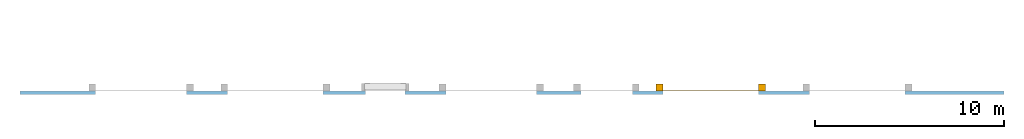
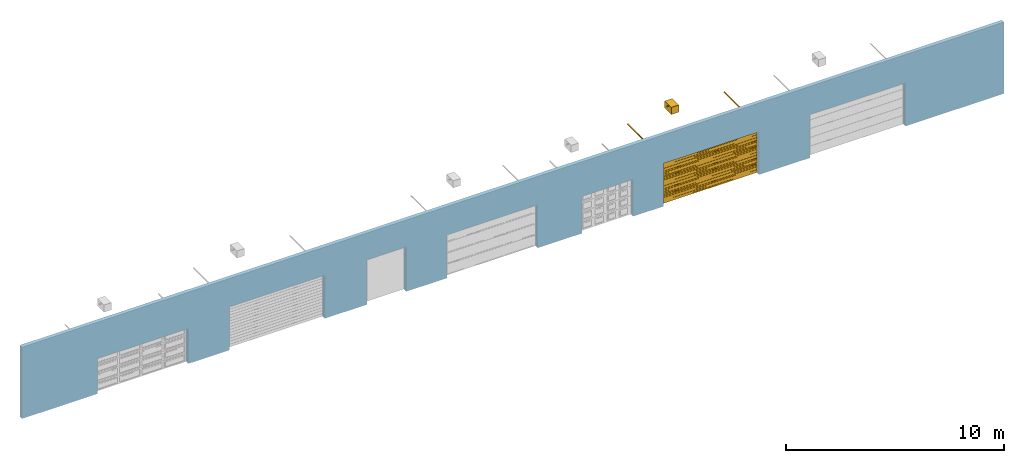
# One storey, part 3 of 4: 1 door, 7 openings, plus 1 element that does not belong to this part.
"""IFC2X3 building model written with IfcOpenShell, lengths in millimetres."""

from ifc_helpers import new_model, entity, si_unit, converted_unit, derived_unit, direction, frame, frame_2d, origin, place, context, subcontext, project, spatial, rectangle, extrude, faceted_brep, source, transform, mapped, material, material_list, layer, layer_set, layer_usage, type_object, type_shapes, element, fill, save


model = new_model("IFC2X3")

# Units and contexts
model_context = context("Model", 3, precision=0.01, world=origin(), true_north=direction((6.12303176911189e-17, 1.0)))
body_context = subcontext(model_context, "Body", "Model", "MODEL_VIEW")
ifc_project = project(units=[si_unit("LENGTHUNIT", "METRE", prefix="MILLI"), si_unit("AREAUNIT", "SQUARE_METRE"), si_unit("VOLUMEUNIT", "CUBIC_METRE"), converted_unit("PLANEANGLEUNIT", "DEGREE", entity("IfcRatioMeasure", 0.0174532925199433), si_unit("PLANEANGLEUNIT", "RADIAN"), dimensions=[0, 0, 0, 0, 0, 0, 0]), si_unit("MASSUNIT", "GRAM", prefix="KILO"), si_unit("TIMEUNIT", "SECOND"), si_unit("FREQUENCYUNIT", "HERTZ"), si_unit("THERMODYNAMICTEMPERATUREUNIT", "DEGREE_CELSIUS"), derived_unit("THERMALTRANSMITTANCEUNIT", [(si_unit("MASSUNIT", "GRAM", prefix="KILO"), 1), (si_unit("THERMODYNAMICTEMPERATUREUNIT", "KELVIN"), -1), (si_unit("TIMEUNIT", "SECOND"), -3)]), derived_unit("VOLUMETRICFLOWRATEUNIT", [(si_unit("LENGTHUNIT", "METRE"), 3), (si_unit("TIMEUNIT", "SECOND"), -1)]), si_unit("ELECTRICCURRENTUNIT", "AMPERE"), si_unit("ELECTRICVOLTAGEUNIT", "VOLT"), si_unit("POWERUNIT", "WATT"), si_unit("FORCEUNIT", "NEWTON", prefix="KILO"), si_unit("ILLUMINANCEUNIT", "LUX"), si_unit("LUMINOUSFLUXUNIT", "LUMEN"), si_unit("LUMINOUSINTENSITYUNIT", "CANDELA"), derived_unit("USERDEFINED", [(si_unit("MASSUNIT", "GRAM", prefix="KILO"), -1), (si_unit("LENGTHUNIT", "METRE"), -2), (si_unit("TIMEUNIT", "SECOND"), 3), (si_unit("LUMINOUSFLUXUNIT", "LUMEN"), 1)]), derived_unit("LINEARVELOCITYUNIT", [(si_unit("LENGTHUNIT", "METRE"), 1), (si_unit("TIMEUNIT", "SECOND"), -1)]), si_unit("PRESSUREUNIT", "PASCAL"), derived_unit("USERDEFINED", [(si_unit("LENGTHUNIT", "METRE"), -2), (si_unit("MASSUNIT", "GRAM", prefix="KILO"), 1), (si_unit("TIMEUNIT", "SECOND"), -2)])], contexts=[model_context])

# Site, building, storey
site_placement = place(None, origin())
site = spatial("IfcSite", under=ifc_project, at=site_placement, Name="Default", CompositionType="ELEMENT")
building_placement = place(site_placement, origin())
building = spatial("IfcBuilding", under=site, at=building_placement, CompositionType="ELEMENT")
storey_placement = place(building_placement, origin())
storey = spatial("IfcBuildingStorey", under=building, at=storey_placement, Name="Level 1", CompositionType="ELEMENT", Elevation=0.0)

# Wall, openings, door
ifc_material_1 = material(Name="Default Wall")
ifc_layer = layer(ifc_material_1, 200.0)
ifc_layer_set = layer_set([ifc_layer], Name="Basic Wall:Wall 1")
ifc_layer_usage = layer_usage(ifc_layer_set, "AXIS2", "NEGATIVE", 100.0)
wall_type = type_object("IfcWallType", Name="Basic Wall:Wall 1", PredefinedType="STANDARD", material=ifc_layer_set)
wall_placement = place(storey_placement, frame((-2331.13804004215, 2294.25711275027, 0.0)))
wall = element("IfcWallStandardCase", 1, at=wall_placement, inside=storey, type_object=wall_type, material=ifc_layer_usage, Name="Basic Wall:Wall 1:2445", ObjectType="Basic Wall:Wall 1:1557", context=body_context, shape_type="SweptSolid", body=[
    extrude(rectangle(XDim=52000.0, YDim=200.0, at=frame_2d((26000.0, -5.6843418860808e-14), x_axis=(-1.0, 0.0))), origin(), (0.0, 0.0, 1.0), 4000.0),
])
opening_1_placement = place(wall_placement, frame((3995.0, -100.0, 0.0)))
element("IfcOpeningElement", 2, at=opening_1_placement, cuts=wall, Name="Door-Garage-Steel Line-Sectional-Ranch:21.27 PLD:8716:1", ObjectType="Opening", context=body_context, shape_type="SweptSolid", body=[
    extrude(rectangle(XDim=1969.99999999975, YDim=4810.0, at=frame_2d((984.999999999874, 2405.0), x_axis=(1.0, 0.0))), frame((0.0, 0.0, 0.0), z_axis=(0.0, 1.0, 0.0), x_axis=(0.0, 0.0, 1.0)), (0.0, 0.0, 1.0), 200.0),
])
opening_2_placement = place(wall_placement, frame((10975.0, -100.0, 0.0)))
element("IfcOpeningElement", 3, at=opening_2_placement, cuts=wall, Name="Door-Garage-Steel Line-Sectional-Slim Line:24.505PLD:1", ObjectType="Opening", context=body_context, shape_type="SweptSolid", body=[
    extrude(rectangle(XDim=2419.99999999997, YDim=5050.0, at=frame_2d((1209.99999999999, 2525.0), x_axis=(1.0, 0.0))), frame((0.0, 0.0, 0.0), z_axis=(0.0, 1.0, 0.0), x_axis=(0.0, 0.0, 1.0)), (0.0, 0.0, 1.0), 200.0),
])
opening_3_placement = place(wall_placement, frame((20350.0, 100.0, 0.0)))
element("IfcOpeningElement", 4, at=opening_3_placement, cuts=wall, Name="Door-Roller-Steel Line-Standard:Standard:1", ObjectType="Opening", context=body_context, shape_type="SweptSolid", body=[
    extrude(rectangle(XDim=2500.0, YDim=2100.0, at=frame_2d((1250.0, 1050.0), x_axis=(1.0, 0.0))), frame((0.0, 0.0, 0.0), z_axis=(0.0, -1.0, 0.0), x_axis=(0.0, 0.0, 1.0)), (0.0, 0.0, 1.0), 200.0),
])
opening_4_placement = place(wall_placement, frame((22500.0, -100.0, 0.0)))
element("IfcOpeningElement", 5, at=opening_4_placement, cuts=wall, Name="Door-Garage-Steel Line-Sectional-Inspirations:24.505PLD:1", ObjectType="Opening", context=body_context, shape_type="SweptSolid", body=[
    extrude(rectangle(XDim=2419.99999999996, YDim=4800.0, at=frame_2d((1209.99999999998, 2400.0), x_axis=(1.0, 0.0))), frame((0.0, 0.0, 0.0), z_axis=(0.0, 1.0, 0.0), x_axis=(0.0, 0.0, 1.0)), (0.0, 0.0, 1.0), 200.0),
])
opening_5_placement = place(wall_placement, frame((29645.0, -100.0, 0.0)))
element("IfcOpeningElement", 6, at=opening_5_placement, cuts=wall, Name="Door-Garage-Steel Line-Sectional-Heritage:21.27 PLD:1", ObjectType="Opening", context=body_context, shape_type="SweptSolid", body=[
    extrude(rectangle(XDim=2069.99999999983, YDim=2710.0, at=frame_2d((1034.99999999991, 1355.0), x_axis=(1.0, 0.0))), frame((0.0, 0.0, 0.0), z_axis=(0.0, 1.0, 0.0), x_axis=(0.0, 0.0, 1.0)), (0.0, 0.0, 1.0), 200.0),
])
opening_6_placement = place(wall_placement, frame((33975.0, -100.0, 0.0)))
opening_6 = element("IfcOpeningElement", 7, at=opening_6_placement, cuts=wall, Name="Door-Garage-Steel Line-Sectional-Glacier:24.505PLD:1", ObjectType="Opening", context=body_context, shape_type="SweptSolid", body=[
    extrude(rectangle(XDim=2419.99999999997, YDim=5050.0, at=frame_2d((1209.99999999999, 2525.00000000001), x_axis=(1.0, 0.0))), frame((0.0, 0.0, 0.0), z_axis=(0.0, 1.0, 0.0), x_axis=(0.0, 0.0, 1.0)), (0.0, 0.0, 1.0), 200.0),
])
opening_7_placement = place(wall_placement, frame((41725.0, -100.0, 0.0)))
element("IfcOpeningElement", 8, at=opening_7_placement, cuts=wall, Name="Door-Garage-Steel Line-Sectional-Flat Line:24.505PLD:1", ObjectType="Opening", context=body_context, shape_type="SweptSolid", body=[
    extrude(rectangle(XDim=2419.99999999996, YDim=5050.0, at=frame_2d((1209.99999999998, 2525.0), x_axis=(1.0, 0.0))), frame((0.0, 0.0, 0.0), z_axis=(0.0, 1.0, 0.0), x_axis=(0.0, 0.0, 1.0)), (0.0, 0.0, 1.0), 200.0),
])
ifc_material_2 = material(Name="Clipsal White Electric (WE)")
ifc_material_3 = material(Name="ClearanceZone")
ifc_material_4 = material(Name="Colorbond Bushland - Steelline Doors")
ifc_material_5 = material(Name="Zincalume - Steelline Doors")
ifc_material_list_1 = material_list([ifc_material_2, ifc_material_3, ifc_material_4, ifc_material_5])
ifc_material_list_2 = material_list([ifc_material_2, ifc_material_3, ifc_material_4, ifc_material_5])
door_style = type_object("IfcDoorStyle", Name="24.505PLD", ConstructionType="NOTDEFINED", OperationType="NOTDEFINED", ParameterTakesPrecedence=False, Sizeable=False, material=ifc_material_list_2)
shared_shape = source(origin(), body_context, "Body", "Brep", [
    faceted_brep([(2861.71248850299, -3342.93367340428, 2687.69999999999), (2865.30238241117, -3307.91230581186, 2689.21967505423), (2864.96635592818, -3345.98339237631, 2688.90364032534), (2864.97843983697, -3279.3123876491, 2688.91403091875), (2865.57949386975, -3278.75062597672, 2690.22631933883), (2866.71248850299, -3277.69169795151, 2692.69999999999), (2866.71248850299, -3316.73014241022, 2692.69999999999), (2866.71248850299, -3347.61538706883, 2692.69999999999), (2865.83942221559, -3346.79938972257, 2690.80182016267), (2861.71248850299, -3303.89522873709, 2687.69999999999), (2861.71248850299, -3282.37341161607, 2687.69999999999), (2866.71248850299, -3277.69169795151, 2700.0), (2866.71248850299, -3347.61538706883, 2700.0), (2753.64863506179, -3345.99469737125, 2688.91403091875), (2756.91458639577, -3342.93367340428, 2687.69999999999), (2776.90139212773, -3343.56268028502, 2687.69999999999), (2809.31353744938, -3349.58272634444, 2692.69999999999), (2791.88329139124, -3348.98530762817, 2692.69999999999), (2800.59092190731, -3348.90715652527, 2690.27009081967), (2842.04198893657, -3348.15273703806, 2690.00218734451), (2846.72813600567, -3348.30034734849, 2692.69999999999), (2838.01301297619, -3348.59905670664, 2692.69999999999), (2826.74378350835, -3348.98530762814, 2692.69999999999), (2818.03532650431, -3348.07280921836, 2689.16446609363), (2818.03630191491, -3349.22653843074, 2690.96468934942), (2847.77985543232, -3346.08989797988, 2688.30978586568), (2800.86098833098, -3346.95959605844, 2688.32444701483), (2809.31353744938, -3344.58272634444, 2687.69999999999), (2766.91865981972, -3348.1162270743, 2690.75615183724), (2781.87148247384, -3348.82197738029, 2690.96328792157), (2771.89893889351, -3348.3003473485, 2692.69999999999), (2780.61406192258, -3348.59905670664, 2692.69999999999), (2778.16560321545, -3347.50373494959, 2689.13016963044), (2832.89911935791, -3347.24069200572, 2688.69297647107), (2841.72568277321, -3343.56268028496, 2687.69999999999), (2793.10746478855, -3344.07270331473, 2687.69999999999), (2751.91458639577, -3347.61538706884, 2692.69999999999), (2753.04758102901, -3346.55645904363, 2690.22631933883), (2825.5196101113, -3344.0727033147, 2687.69999999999), (2809.31353744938, -3280.72435867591, 2687.69999999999), (2825.51961011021, -3281.23438170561, 2687.69999999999), (2841.72568277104, -3281.74440473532, 2687.69999999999), (2756.91458639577, -3321.41185671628, 2687.69999999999), (2756.91458639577, -3282.37341161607, 2687.69999999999), (2776.90139212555, -3281.74440473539, 2687.69999999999), (2793.10746478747, -3281.23438170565, 2687.69999999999), (2809.31353744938, -3349.58272634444, 2700.0), (2835.14408620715, -3348.69738868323, 2700.0), (2838.01301297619, -3276.70802831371, 2700.0), (2809.31353744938, -3275.72435867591, 2700.0), (2783.48298869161, -3276.60969633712, 2700.0), (2751.91458639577, -3277.69169795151, 2700.0), (2751.91458639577, -3347.61538706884, 2700.0), (2780.61406192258, -3348.59905670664, 2700.0), (2753.3246924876, -3317.39477920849, 2689.21967505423), (2753.66071897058, -3279.32369264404, 2688.90364032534), (2751.91458639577, -3308.57694275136, 2692.69999999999), (2751.91458639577, -3277.69169795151, 2692.69999999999), (2752.78765268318, -3278.50769529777, 2690.80182016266), (2809.31353744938, -3275.72435867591, 2692.69999999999), (2826.74378350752, -3276.32177739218, 2692.69999999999), (2818.03615299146, -3276.39992849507, 2690.27009081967), (2776.58508596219, -3277.15434798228, 2690.00218734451), (2771.89893889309, -3277.00673767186, 2692.69999999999), (2780.61406192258, -3276.70802831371, 2692.69999999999), (2791.88329139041, -3276.3217773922, 2692.69999999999), (2800.59174839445, -3277.23427580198, 2689.16446609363), (2800.59077298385, -3276.08054658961, 2690.96468934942), (2770.84721946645, -3279.21718704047, 2688.30978586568), (2817.76608656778, -3278.34748896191, 2688.32444701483), (2851.70841507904, -3277.19085794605, 2690.75615183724), (2836.75559242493, -3276.48510764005, 2690.96328792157), (2846.72813600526, -3277.00673767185, 2692.69999999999), (2838.01301297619, -3276.70802831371, 2692.69999999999), (2840.46147168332, -3277.80335007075, 2689.13016963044), (2785.72795554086, -3278.06639301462, 2688.69297647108)], [[[0, 1, 2]], [[1, 3, 4, 5]], [[6, 7, 8, 2]], [[0, 9, 1]], [[3, 1, 9]], [[2, 1, 6]], [[3, 9, 10]], [[5, 6, 1]], [[11, 12, 7, 6, 5]], [[13, 14, 15]], [[16, 17, 18]], [[19, 20, 21, 22]], [[23, 19, 24]], [[0, 2, 25]], [[23, 26, 27]], [[28, 29, 30]], [[18, 26, 23]], [[19, 25, 2]], [[29, 17, 31, 30]], [[28, 32, 29]], [[23, 24, 18]], [[33, 34, 25]], [[24, 22, 16]], [[13, 32, 28]], [[32, 26, 18]], [[32, 35, 26]], [[18, 17, 29]], [[15, 32, 13]], [[36, 37, 13, 28]], [[18, 24, 16]], [[33, 25, 19]], [[8, 7, 20]], [[22, 24, 19]], [[35, 32, 15]], [[35, 27, 26]], [[18, 29, 32]], [[36, 28, 30]], [[23, 27, 38]], [[33, 19, 23]], [[0, 25, 34]], [[23, 38, 33]], [[34, 33, 38]], [[19, 2, 8]], [[8, 20, 19]], [[39, 40, 41, 10, 9, 0, 34, 38, 27, 35, 15, 14, 42, 43, 44, 45]], [[46, 47, 12, 11, 48, 49, 50, 51, 52, 53]], [[12, 47, 46, 16, 22, 21, 20, 7]], [[53, 52, 36, 30, 31, 17, 16, 46]], [[43, 54, 55]], [[54, 13, 37, 36]], [[56, 57, 58, 55]], [[43, 42, 54]], [[13, 54, 42]], [[55, 54, 56]], [[13, 42, 14]], [[36, 56, 54]], [[52, 51, 57, 56, 36]], [[3, 10, 41]], [[59, 60, 61]], [[62, 63, 64, 65]], [[66, 62, 67]], [[43, 55, 68]], [[66, 69, 39]], [[70, 71, 72]], [[61, 69, 66]], [[62, 68, 55]], [[71, 60, 73, 72]], [[70, 74, 71]], [[66, 67, 61]], [[75, 44, 68]], [[67, 65, 59]], [[3, 74, 70]], [[74, 69, 61]], [[74, 40, 69]], [[61, 60, 71]], [[41, 74, 3]], [[5, 4, 3, 70]], [[61, 67, 59]], [[75, 68, 62]], [[58, 57, 63]], [[65, 67, 62]], [[40, 74, 41]], [[40, 39, 69]], [[61, 71, 74]], [[5, 70, 72]], [[66, 39, 45]], [[75, 62, 66]], [[43, 68, 44]], [[66, 45, 75]], [[44, 75, 45]], [[62, 55, 58]], [[58, 63, 62]], [[51, 50, 49, 59, 65, 64, 63, 57]], [[48, 11, 5, 72, 73, 60, 59, 49]]]),
    faceted_brep([(2725.0, -3730.0, 2300.0), (2325.0, -3730.0, 2300.0), (2325.0, -3130.0, 2300.0), (2725.0, -3130.0, 2300.0), (2725.0, -3730.0, 2700.0), (2725.0, -3130.0, 2700.0), (2325.0, -3130.0, 2700.0), (2325.0, -3730.0, 2700.0)], [[[0, 1, 2, 3]], [[4, 5, 6, 7]], [[1, 0, 4, 7]], [[2, 1, 7, 6]], [[3, 2, 6, 5]], [[0, 3, 5, 4]]]),
    faceted_brep([(5410.0, 0.0, 2810.0), (-360.0, 0.0, 2810.0), (-360.0, -360.0, 2810.0), (5410.0, -360.0, 2810.0), (5410.0, 0.0, 2450.0), (5410.0, -360.0, 2450.0), (-360.0, -360.0, 2450.0), (-360.0, 0.0, 2450.0)], [[[0, 1, 2, 3]], [[4, 5, 6, 7]], [[1, 0, 4, 7]], [[2, 1, 7, 6]], [[3, 2, 6, 5]], [[0, 3, 5, 4]]]),
    faceted_brep([(5410.0, 0.0, 2450.0), (5050.0, 0.0, 2450.0), (5050.0, -360.0, 2450.0), (5410.0, -360.0, 2450.0), (5410.0, 0.0, 0.0), (5410.0, -360.0, 0.0), (5050.0, -360.0, 0.0), (5050.0, 0.0, 0.0)], [[[0, 1, 2, 3]], [[4, 5, 6, 7]], [[1, 0, 4, 7]], [[2, 1, 7, 6]], [[3, 2, 6, 5]], [[0, 3, 5, 4]]]),
    faceted_brep([(0.0, 0.0, 2450.0), (-360.0, 0.0, 2450.0), (-360.0, -360.0, 2450.0), (0.0, -360.0, 2450.0), (0.0, 0.0, 0.0), (0.0, -360.0, 0.0), (-360.0, -360.0, 0.0), (-360.0, 0.0, 0.0)], [[[0, 1, 2, 3]], [[4, 5, 6, 7]], [[1, 0, 4, 7]], [[2, 1, 7, 6]], [[3, 2, 6, 5]], [[0, 3, 5, 4]]]),
    faceted_brep([(-30.0, -30.0, 1960.0), (-30.0, -5.0, 1960.0), (-30.0, 0.0, 1955.0), (-30.0, 0.0, 1883.33333333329), (-30.0, -5.0, 1878.33333333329), (-30.0, 0.0, 1878.33333333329), (-30.0, 0.0, 1801.66666666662), (-30.0, -25.0, 1801.66666666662), (-30.0, -25.0, 1791.66666666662), (-30.0, 0.0, 1791.66666666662), (-30.0, 0.0, 1720.0), (-30.0, -5.0, 1715.0), (-30.0, 0.0, 1715.0), (-30.0, 0.0, 1638.33333333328), (-30.0, -5.0, 1638.33333333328), (-30.0, -5.0, 1628.33333333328), (-30.0, 0.0, 1628.33333333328), (-30.0, 0.0, 1551.66666666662), (-30.0, -5.0, 1551.66666666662), (-30.0, 0.0, 1546.66666666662), (-30.0, 0.0, 1475.0), (-30.0, -5.0, 1470.0), (-30.0, -30.0, 1470.0), (5080.0, -30.0, 1960.0), (5080.0, -30.0, 1470.0), (5080.0, -5.0, 1470.0), (5080.0, 0.0, 1475.0), (5080.0, 0.0, 1546.66666666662), (5080.0, -5.0, 1551.66666666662), (5080.0, 0.0, 1551.66666666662), (5080.0, 0.0, 1628.33333333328), (5080.0, -5.0, 1628.33333333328), (5080.0, -5.0, 1638.33333333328), (5080.0, 0.0, 1638.33333333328), (5080.0, 0.0, 1715.0), (5080.0, -5.0, 1715.0), (5080.0, 0.0, 1720.0), (5080.0, 0.0, 1791.66666666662), (5080.0, -25.0, 1791.66666666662), (5080.0, -25.0, 1801.66666666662), (5080.0, 0.0, 1801.66666666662), (5080.0, 0.0, 1878.33333333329), (5080.0, -5.0, 1878.33333333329), (5080.0, 0.0, 1883.33333333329), (5080.0, 0.0, 1955.0), (5080.0, -5.0, 1960.0)], [[[0, 1, 2, 3, 4, 5, 6, 7, 8, 9, 10, 11, 12, 13, 14, 15, 16, 17, 18, 19, 20, 21, 22]], [[23, 24, 25, 26, 27, 28, 29, 30, 31, 32, 33, 34, 35, 36, 37, 38, 39, 40, 41, 42, 43, 44, 45]], [[1, 0, 23, 45]], [[2, 1, 45, 44]], [[3, 2, 44, 43]], [[4, 3, 43, 42]], [[5, 4, 42, 41]], [[6, 5, 41, 40]], [[7, 6, 40, 39]], [[8, 7, 39, 38]], [[9, 8, 38, 37]], [[10, 9, 37, 36]], [[11, 10, 36, 35]], [[12, 11, 35, 34]], [[13, 12, 34, 33]], [[14, 13, 33, 32]], [[15, 14, 32, 31]], [[16, 15, 31, 30]], [[17, 16, 30, 29]], [[18, 17, 29, 28]], [[19, 18, 28, 27]], [[20, 19, 27, 26]], [[21, 20, 26, 25]], [[22, 21, 25, 24]], [[0, 22, 24, 23]]]),
    faceted_brep([(5105.0, 0.0, 0.0), (5105.0, -30.0, 0.0), (5055.0, -30.0, 0.0), (5055.0, 0.0, 0.0), (5055.0, 0.0, 2450.0), (5055.0, -30.0, 2450.0), (5055.0, -34.7636966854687, 2492.2789774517), (5055.0, -48.8159150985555, 2532.43791043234), (5055.0, -71.4520183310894, 2568.46306235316), (5055.0, -101.536937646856, 2598.54798166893), (5055.0, -137.562089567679, 2621.18408490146), (5055.0, -177.721022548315, 2635.23630331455), (5055.0, -220.0, 2640.0), (5055.0, -3050.0, 2640.0), (5055.0, -3050.0, 2670.0), (5055.0, -220.0, 2670.0), (5055.0, -171.045394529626, 2664.48414068), (5055.0, -124.545577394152, 2648.21315093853), (5055.0, -82.8322435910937, 2622.00292614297), (5055.0, -47.9970738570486, 2587.16775640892), (5055.0, -21.7868490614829, 2545.45442260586), (5055.0, -5.51585932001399, 2498.95460547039), (5105.0, -30.0, 2450.0), (5105.0, 0.0, 2450.0), (5105.0, -5.51585932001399, 2498.95460547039), (5105.0, -21.7868490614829, 2545.45442260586), (5105.0, -47.9970738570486, 2587.16775640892), (5105.0, -82.8322435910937, 2622.00292614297), (5105.0, -124.545577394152, 2648.21315093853), (5105.0, -171.045394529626, 2664.48414068), (5105.0, -220.0, 2670.0), (5105.0, -3050.0, 2670.0), (5105.0, -3050.0, 2640.0), (5105.0, -220.0, 2640.0), (5105.0, -177.721022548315, 2635.23630331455), (5105.0, -137.562089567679, 2621.18408490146), (5105.0, -101.536937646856, 2598.54798166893), (5105.0, -71.4520183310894, 2568.46306235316), (5105.0, -48.8159150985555, 2532.43791043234), (5105.0, -34.7636966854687, 2492.2789774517)], [[[0, 1, 2, 3]], [[4, 3, 2, 5, 6, 7, 8, 9, 10, 11, 12, 13, 14, 15, 16, 17, 18, 19, 20, 21]], [[5, 2, 1, 22]], [[23, 24, 25, 26, 27, 28, 29, 30, 31, 32, 33, 34, 35, 36, 37, 38, 39, 22, 1, 0]], [[23, 0, 3, 4]], [[6, 5, 22, 39]], [[39, 38, 7, 6]], [[37, 8, 7, 38]], [[37, 36, 9, 8]], [[36, 35, 10, 9]], [[35, 34, 11, 10]], [[11, 34, 33, 12]], [[24, 23, 4, 21]], [[20, 25, 24, 21]], [[25, 20, 19, 26]], [[19, 18, 27, 26]], [[28, 27, 18, 17]], [[17, 16, 29, 28]], [[29, 16, 15, 30]], [[13, 32, 31, 14]], [[32, 13, 12, 33]], [[14, 31, 30, 15]]]),
    faceted_brep([(-5.0, -30.0, 0.0), (-55.0, -30.0, 0.0), (-55.0, 0.0, 0.0), (-5.0, 0.0, 0.0), (-5.0, 0.0, 2450.0), (-5.0, -5.51585932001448, 2498.95460547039), (-5.0, -21.7868490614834, 2545.45442260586), (-5.0, -47.997073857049, 2587.16775640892), (-5.0, -82.8322435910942, 2622.00292614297), (-5.0, -124.545577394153, 2648.21315093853), (-5.0, -171.045394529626, 2664.48414068), (-5.0, -220.0, 2670.0), (-5.0, -3050.0, 2670.0), (-5.0, -3050.0, 2640.0), (-5.0, -220.0, 2640.0), (-5.0, -177.721022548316, 2635.23630331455), (-5.0, -137.562089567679, 2621.18408490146), (-5.0, -101.536937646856, 2598.54798166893), (-5.0, -71.45201833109, 2568.46306235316), (-5.0, -48.815915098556, 2532.43791043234), (-5.0, -34.7636966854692, 2492.2789774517), (-5.0, -30.0, 2450.0), (-55.0, -30.0, 2450.0), (-55.0, -34.7636966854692, 2492.2789774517), (-55.0, -48.815915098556, 2532.43791043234), (-55.0, -71.45201833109, 2568.46306235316), (-55.0, -101.536937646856, 2598.54798166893), (-55.0, -137.562089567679, 2621.18408490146), (-55.0, -177.721022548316, 2635.23630331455), (-55.0, -220.0, 2640.0), (-55.0, -3050.0, 2640.0), (-55.0, -3050.0, 2670.0), (-55.0, -220.0, 2670.0), (-55.0, -171.045394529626, 2664.48414068), (-55.0, -124.545577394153, 2648.21315093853), (-55.0, -82.8322435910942, 2622.00292614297), (-55.0, -47.997073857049, 2587.16775640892), (-55.0, -21.7868490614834, 2545.45442260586), (-55.0, -5.51585932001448, 2498.95460547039), (-55.0, 0.0, 2450.0)], [[[0, 1, 2, 3]], [[0, 3, 4, 5, 6, 7, 8, 9, 10, 11, 12, 13, 14, 15, 16, 17, 18, 19, 20, 21]], [[1, 0, 21, 22]], [[22, 23, 24, 25, 26, 27, 28, 29, 30, 31, 32, 33, 34, 35, 36, 37, 38, 39, 2, 1]], [[3, 2, 39, 4]], [[23, 22, 21, 20]], [[19, 24, 23, 20]], [[24, 19, 18, 25]], [[18, 17, 26, 25]], [[16, 27, 26, 17]], [[16, 15, 28, 27]], [[29, 28, 15, 14]], [[5, 4, 39, 38]], [[38, 37, 6, 5]], [[36, 7, 6, 37]], [[36, 35, 8, 7]], [[9, 8, 35, 34]], [[34, 33, 10, 9]], [[32, 11, 10, 33]], [[31, 30, 13, 12]], [[29, 14, 13, 30]], [[11, 32, 31, 12]]]),
    faceted_brep([(-30.0, -30.0, 1470.0), (-30.0, -5.0, 1470.0), (-30.0, 0.0, 1465.0), (-30.0, 0.0, 1393.3333333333), (-30.0, -5.0, 1388.3333333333), (-30.0, 0.0, 1388.3333333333), (-30.0, 0.0, 1311.66666666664), (-30.0, -25.0, 1311.66666666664), (-30.0, -25.0, 1301.66666666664), (-30.0, 0.0, 1301.66666666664), (-30.0, 0.0, 1230.0), (-30.0, -5.0, 1225.0), (-30.0, 0.0, 1225.0), (-30.0, 0.0, 1148.3333333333), (-30.0, -5.0, 1148.3333333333), (-30.0, -5.0, 1138.3333333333), (-30.0, 0.0, 1138.3333333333), (-30.0, 0.0, 1061.66666666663), (-30.0, -5.0, 1061.66666666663), (-30.0, 0.0, 1056.66666666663), (-30.0, 0.0, 985.0), (-30.0, -5.0, 980.0), (-30.0, -30.0, 980.0), (5080.0, -30.0, 1470.0), (5080.0, -30.0, 980.0), (5080.0, -5.0, 980.0), (5080.0, 0.0, 985.0), (5080.0, 0.0, 1056.66666666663), (5080.0, -5.0, 1061.66666666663), (5080.0, 0.0, 1061.66666666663), (5080.0, 0.0, 1138.3333333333), (5080.0, -5.0, 1138.3333333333), (5080.0, -5.0, 1148.3333333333), (5080.0, 0.0, 1148.3333333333), (5080.0, 0.0, 1225.0), (5080.0, -5.0, 1225.0), (5080.0, 0.0, 1230.0), (5080.0, 0.0, 1301.66666666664), (5080.0, -25.0, 1301.66666666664), (5080.0, -25.0, 1311.66666666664), (5080.0, 0.0, 1311.66666666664), (5080.0, 0.0, 1388.3333333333), (5080.0, -5.0, 1388.3333333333), (5080.0, 0.0, 1393.3333333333), (5080.0, 0.0, 1465.0), (5080.0, -5.0, 1470.0)], [[[0, 1, 2, 3, 4, 5, 6, 7, 8, 9, 10, 11, 12, 13, 14, 15, 16, 17, 18, 19, 20, 21, 22]], [[23, 24, 25, 26, 27, 28, 29, 30, 31, 32, 33, 34, 35, 36, 37, 38, 39, 40, 41, 42, 43, 44, 45]], [[1, 0, 23, 45]], [[2, 1, 45, 44]], [[3, 2, 44, 43]], [[4, 3, 43, 42]], [[5, 4, 42, 41]], [[6, 5, 41, 40]], [[7, 6, 40, 39]], [[8, 7, 39, 38]], [[9, 8, 38, 37]], [[10, 9, 37, 36]], [[11, 10, 36, 35]], [[12, 11, 35, 34]], [[13, 12, 34, 33]], [[14, 13, 33, 32]], [[15, 14, 32, 31]], [[16, 15, 31, 30]], [[17, 16, 30, 29]], [[18, 17, 29, 28]], [[19, 18, 28, 27]], [[20, 19, 27, 26]], [[21, 20, 26, 25]], [[22, 21, 25, 24]], [[0, 22, 24, 23]]]),
    faceted_brep([(-30.0, -30.0, 980.0), (-30.0, -5.0, 980.0), (-30.0, 0.0, 975.0), (-30.0, 0.0, 903.333333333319), (-30.0, -5.0, 898.333333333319), (-30.0, 0.0, 898.333333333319), (-30.0, 0.0, 821.666666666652), (-30.0, -25.0, 821.666666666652), (-30.0, -25.0, 811.666666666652), (-30.0, 0.0, 811.666666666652), (-30.0, 0.0, 740.0), (-30.0, -5.0, 735.0), (-30.0, 0.0, 735.0), (-30.0, 0.0, 658.333333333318), (-30.0, -5.0, 658.333333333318), (-30.0, -5.0, 648.333333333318), (-30.0, 0.0, 648.333333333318), (-30.0, 0.0, 571.666666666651), (-30.0, -5.0, 571.666666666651), (-30.0, 0.0, 566.666666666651), (-30.0, 0.0, 495.0), (-30.0, -5.0, 490.0), (-30.0, -30.0, 490.0), (5080.0, -30.0, 980.0), (5080.0, -30.0, 490.0), (5080.0, -5.0, 490.0), (5080.0, 0.0, 495.0), (5080.0, 0.0, 566.666666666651), (5080.0, -5.0, 571.666666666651), (5080.0, 0.0, 571.666666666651), (5080.0, 0.0, 648.333333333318), (5080.0, -5.0, 648.333333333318), (5080.0, -5.0, 658.333333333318), (5080.0, 0.0, 658.333333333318), (5080.0, 0.0, 735.0), (5080.0, -5.0, 735.0), (5080.0, 0.0, 740.0), (5080.0, 0.0, 811.666666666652), (5080.0, -25.0, 811.666666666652), (5080.0, -25.0, 821.666666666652), (5080.0, 0.0, 821.666666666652), (5080.0, 0.0, 898.333333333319), (5080.0, -5.0, 898.333333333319), (5080.0, 0.0, 903.333333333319), (5080.0, 0.0, 975.0), (5080.0, -5.0, 980.0)], [[[0, 1, 2, 3, 4, 5, 6, 7, 8, 9, 10, 11, 12, 13, 14, 15, 16, 17, 18, 19, 20, 21, 22]], [[23, 24, 25, 26, 27, 28, 29, 30, 31, 32, 33, 34, 35, 36, 37, 38, 39, 40, 41, 42, 43, 44, 45]], [[1, 0, 23, 45]], [[2, 1, 45, 44]], [[3, 2, 44, 43]], [[4, 3, 43, 42]], [[5, 4, 42, 41]], [[6, 5, 41, 40]], [[7, 6, 40, 39]], [[8, 7, 39, 38]], [[9, 8, 38, 37]], [[10, 9, 37, 36]], [[11, 10, 36, 35]], [[12, 11, 35, 34]], [[13, 12, 34, 33]], [[14, 13, 33, 32]], [[15, 14, 32, 31]], [[16, 15, 31, 30]], [[17, 16, 30, 29]], [[18, 17, 29, 28]], [[19, 18, 28, 27]], [[20, 19, 27, 26]], [[21, 20, 26, 25]], [[22, 21, 25, 24]], [[0, 22, 24, 23]]]),
    faceted_brep([(-30.0, -30.0, 2450.0), (-30.0, -5.0, 2450.0), (-30.0, 0.0, 2445.0), (-30.0, 0.0, 2373.33333333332), (-30.0, -5.0, 2368.33333333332), (-30.0, 0.0, 2368.33333333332), (-30.0, 0.0, 2291.66666666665), (-30.0, -25.0, 2291.66666666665), (-30.0, -25.0, 2281.66666666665), (-30.0, 0.0, 2281.66666666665), (-30.0, 0.0, 2210.0), (-30.0, -5.0, 2205.0), (-30.0, 0.0, 2205.0), (-30.0, 0.0, 2128.33333333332), (-30.0, -5.0, 2128.33333333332), (-30.0, -5.0, 2118.33333333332), (-30.0, 0.0, 2118.33333333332), (-30.0, 0.0, 2041.66666666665), (-30.0, -5.0, 2041.66666666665), (-30.0, 0.0, 2036.66666666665), (-30.0, 0.0, 1965.0), (-30.0, -5.0, 1960.0), (-30.0, -30.0, 1960.0), (5080.0, -30.0, 2450.0), (5080.0, -30.0, 1960.0), (5080.0, -5.0, 1960.0), (5080.0, 0.0, 1965.0), (5080.0, 0.0, 2036.66666666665), (5080.0, -5.0, 2041.66666666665), (5080.0, 0.0, 2041.66666666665), (5080.0, 0.0, 2118.33333333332), (5080.0, -5.0, 2118.33333333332), (5080.0, -5.0, 2128.33333333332), (5080.0, 0.0, 2128.33333333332), (5080.0, 0.0, 2205.0), (5080.0, -5.0, 2205.0), (5080.0, 0.0, 2210.0), (5080.0, 0.0, 2281.66666666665), (5080.0, -25.0, 2281.66666666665), (5080.0, -25.0, 2291.66666666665), (5080.0, 0.0, 2291.66666666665), (5080.0, 0.0, 2368.33333333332), (5080.0, -5.0, 2368.33333333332), (5080.0, 0.0, 2373.33333333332), (5080.0, 0.0, 2445.0), (5080.0, -5.0, 2450.0)], [[[0, 1, 2, 3, 4, 5, 6, 7, 8, 9, 10, 11, 12, 13, 14, 15, 16, 17, 18, 19, 20, 21, 22]], [[23, 24, 25, 26, 27, 28, 29, 30, 31, 32, 33, 34, 35, 36, 37, 38, 39, 40, 41, 42, 43, 44, 45]], [[1, 0, 23, 45]], [[2, 1, 45, 44]], [[3, 2, 44, 43]], [[4, 3, 43, 42]], [[5, 4, 42, 41]], [[6, 5, 41, 40]], [[7, 6, 40, 39]], [[8, 7, 39, 38]], [[9, 8, 38, 37]], [[10, 9, 37, 36]], [[11, 10, 36, 35]], [[12, 11, 35, 34]], [[13, 12, 34, 33]], [[14, 13, 33, 32]], [[15, 14, 32, 31]], [[16, 15, 31, 30]], [[17, 16, 30, 29]], [[18, 17, 29, 28]], [[19, 18, 28, 27]], [[20, 19, 27, 26]], [[21, 20, 26, 25]], [[22, 21, 25, 24]], [[0, 22, 24, 23]]]),
    faceted_brep([(-30.0, -30.0, 490.0), (-30.0, -5.0, 490.0), (-30.0, 0.0, 485.0), (-30.0, 0.0, 413.333333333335), (-30.0, -5.0, 408.333333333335), (-30.0, 0.0, 408.333333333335), (-30.0, 0.0, 331.666666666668), (-30.0, -25.0, 331.666666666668), (-30.0, -25.0, 321.666666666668), (-30.0, 0.0, 321.666666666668), (-30.0, 0.0, 250.0), (-30.0, -5.0, 245.0), (-30.0, 0.0, 245.0), (-30.0, 0.0, 168.333333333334), (-30.0, -5.0, 168.333333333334), (-30.0, -5.0, 158.333333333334), (-30.0, 0.0, 158.333333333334), (-30.0, 0.0, 81.6666666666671), (-30.0, -5.0, 81.6666666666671), (-30.0, 0.0, 76.6666666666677), (-30.0, 0.0, 5.0), (-30.0, -5.0, 0.0), (-30.0, -30.0, 0.0), (5080.0, -30.0, 490.0), (5080.0, -30.0, 0.0), (5080.0, -5.0, 0.0), (5080.0, 0.0, 5.0), (5080.0, 0.0, 76.6666666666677), (5080.0, -5.0, 81.6666666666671), (5080.0, 0.0, 81.6666666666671), (5080.0, 0.0, 158.333333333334), (5080.0, -5.0, 158.333333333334), (5080.0, -5.0, 168.333333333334), (5080.0, 0.0, 168.333333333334), (5080.0, 0.0, 245.0), (5080.0, -5.0, 245.0), (5080.0, 0.0, 250.0), (5080.0, 0.0, 321.666666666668), (5080.0, -25.0, 321.666666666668), (5080.0, -25.0, 331.666666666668), (5080.0, 0.0, 331.666666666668), (5080.0, 0.0, 408.333333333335), (5080.0, -5.0, 408.333333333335), (5080.0, 0.0, 413.333333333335), (5080.0, 0.0, 485.0), (5080.0, -5.0, 490.0)], [[[0, 1, 2, 3, 4, 5, 6, 7, 8, 9, 10, 11, 12, 13, 14, 15, 16, 17, 18, 19, 20, 21, 22]], [[23, 24, 25, 26, 27, 28, 29, 30, 31, 32, 33, 34, 35, 36, 37, 38, 39, 40, 41, 42, 43, 44, 45]], [[1, 0, 23, 45]], [[2, 1, 45, 44]], [[3, 2, 44, 43]], [[4, 3, 43, 42]], [[5, 4, 42, 41]], [[6, 5, 41, 40]], [[7, 6, 40, 39]], [[8, 7, 39, 38]], [[9, 8, 38, 37]], [[10, 9, 37, 36]], [[11, 10, 36, 35]], [[12, 11, 35, 34]], [[13, 12, 34, 33]], [[14, 13, 33, 32]], [[15, 14, 32, 31]], [[16, 15, 31, 30]], [[17, 16, 30, 29]], [[18, 17, 29, 28]], [[19, 18, 28, 27]], [[20, 19, 27, 26]], [[21, 20, 26, 25]], [[22, 21, 25, 24]], [[0, 22, 24, 23]]]),
])
type_shapes(door_style, [shared_shape])
door_placement = place(opening_6_placement, frame((5050.0, 200.0, 0.0), z_axis=(0.0, 0.0, 1.0), x_axis=(-1.0, 0.0, 0.0)))
door = element("IfcDoor", 9, at=door_placement, inside=storey, type_object=door_style, material=ifc_material_list_1, Name="Door-Garage-Steel Line-Sectional-Glacier:24.505PLD", ObjectType="24.505PLD", OverallHeight=2419.99999999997, OverallWidth=5050.0, context=body_context, shape_type="MappedRepresentation", body=[
    mapped(shared_shape, transform((0.0, 0.0, 0.0), scale=1.0)),
])
fill(opening_6, door)

save(model, "model.ifc")
